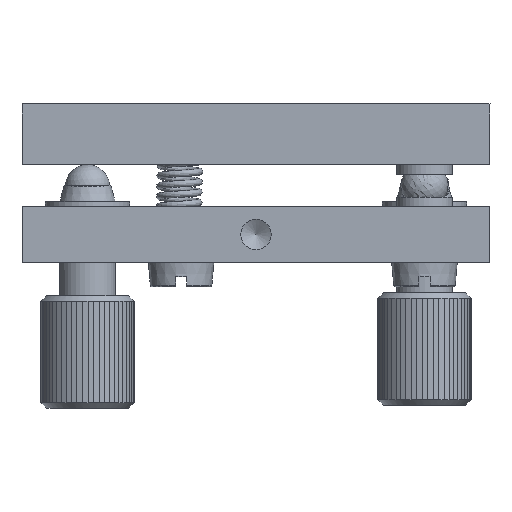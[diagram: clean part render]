
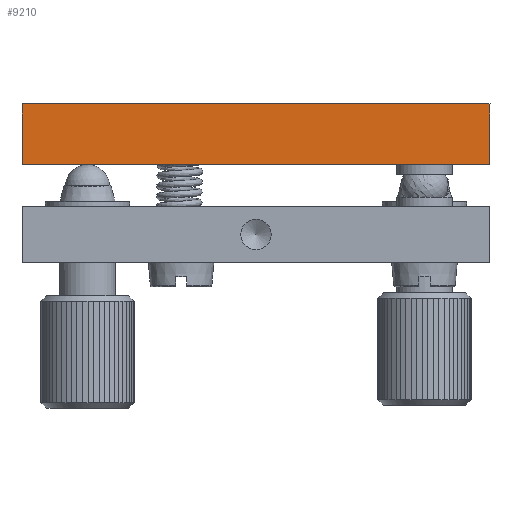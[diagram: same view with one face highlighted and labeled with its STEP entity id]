
A CAD part, left-side view. The second image highlights one B-rep face of the part: STEP entity #9210.
In plain terms, the highlighted planar face has unit normal (-1, 0, 0).
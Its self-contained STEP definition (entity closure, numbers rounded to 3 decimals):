
#598=LINE($,#15913,#1272);
#606=LINE($,#15928,#1280);
#607=LINE($,#15930,#1281);
#608=LINE($,#15931,#1282);
#1272=VECTOR($,#11585,6.5);
#1280=VECTOR($,#11597,6.5);
#1281=VECTOR($,#11600,50.);
#1282=VECTOR($,#11601,50.);
#2012=PLANE($,#10075);
#2692=FACE_OUTER_BOUND($,#3419,.T.);
#3419=EDGE_LOOP($,(#7099,#7100,#7101,#7102));
#4480=VERTEX_POINT($,#15910);
#4481=VERTEX_POINT($,#15912);
#4485=VERTEX_POINT($,#15924);
#4486=VERTEX_POINT($,#15926);
#5417=EDGE_CURVE($,#4481,#4480,#598,.T.);
#5425=EDGE_CURVE($,#4486,#4485,#606,.T.);
#5426=EDGE_CURVE($,#4480,#4485,#607,.T.);
#5427=EDGE_CURVE($,#4486,#4481,#608,.T.);
#7099=ORIENTED_EDGE($,*,*,#5426,.T.);
#7100=ORIENTED_EDGE($,*,*,#5425,.F.);
#7101=ORIENTED_EDGE($,*,*,#5427,.T.);
#7102=ORIENTED_EDGE($,*,*,#5417,.T.);
#9210=ADVANCED_FACE($,(#2692),#2012,.T.);
#10075=AXIS2_PLACEMENT_3D($,#15929,#11598,#11599);
#11585=DIRECTION($,(0.,0.,-1.));
#11597=DIRECTION($,(0.,0.,-1.));
#11598=DIRECTION('center_axis',(-1.,0.,0.));
#11599=DIRECTION('ref_axis',(0.,0.,
-1.));
#11600=DIRECTION($,(0.,-1.,0.));
#11601=DIRECTION($,(0.,1.,0.));
#15910=CARTESIAN_POINT('',(1.,50.,10.451));
#15912=CARTESIAN_POINT('',(1.,50.,16.951));
#15913=CARTESIAN_POINT($,(1.,50.,16.951));
#15924=CARTESIAN_POINT('',(1.,0.,10.451));
#15926=CARTESIAN_POINT('',(1.,0.,16.951));
#15928=CARTESIAN_POINT($,(1.,0.,16.951));
#15929=CARTESIAN_POINT('Origin',(1.,50.,16.951));
#15930=CARTESIAN_POINT($,(1.,0.,10.451));
#15931=CARTESIAN_POINT($,(1.,0.,16.951));
